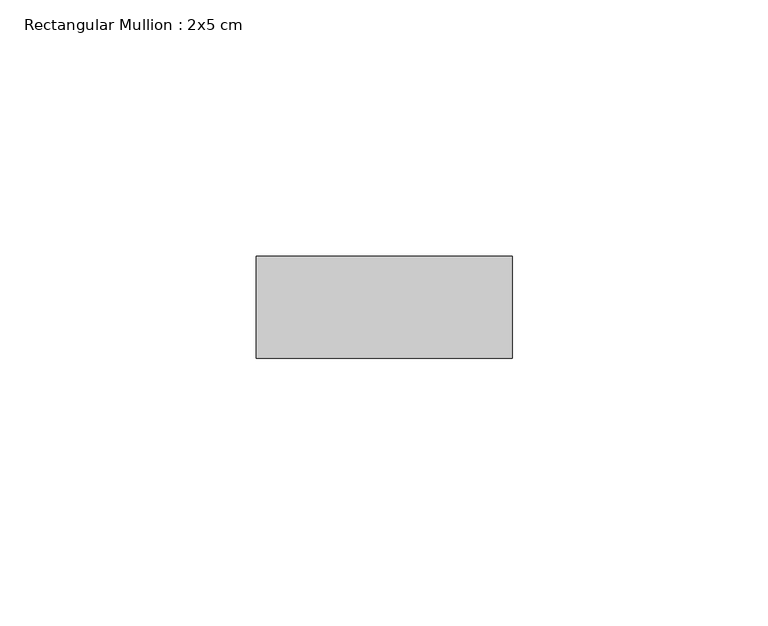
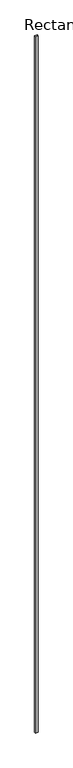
"""IFC4 building model written with IfcOpenShell, lengths in millimetres: member geometry, Rectangular Mullion : 2x5 cm."""

from ifc_helpers import new_model, si_unit, frame, origin, place, context, project, spatial, polyline, outline, extrude, source, transform, mapped, element, save


def rectangular_mullion_2x5_cm_12a7229f(model_context):
    return source(origin(), model_context, "Body", "SweptSolid", [
        extrude(outline(polyline([(50.0, 20.0), (50.0, 0.0), (0.0, 0.0), (0.0, 20.0), (50.0, 20.0)])), frame((0.0, 0.0, -12834.8481346), z_axis=(0.0, 0.0, 1.0), x_axis=(1.0, 0.0, 0.0)), (0.0, 0.0, 1.0), 12834.8481346),
    ])


if __name__ == "__main__":
    model = new_model("IFC4")
    model_context = context("Model", 3, world=origin())
    ifc_project = project(units=[si_unit("LENGTHUNIT", "METRE", prefix="MILLI")], contexts=[model_context])
    site = spatial("IfcSite", under=ifc_project)
    building = spatial("IfcBuilding", under=site)
    placement = place(None, origin())
    rectangular_mullion_2x5_cm_shape = rectangular_mullion_2x5_cm_12a7229f(model_context)
    element("IfcMember", 1, ObjectType="Rectangular Mullion : 2x5 cm", at=placement, inside=building, context=model_context, shape_type="MappedRepresentation", body=[
        mapped(rectangular_mullion_2x5_cm_shape, transform((0.0, 0.0, 0.0), x_axis=(1.0, 0.0, 0.0), y_axis=(0.0, 1.0, 0.0), z_axis=(0.0, 0.0, 1.0))),
    ])
    save(model, "model.ifc")
